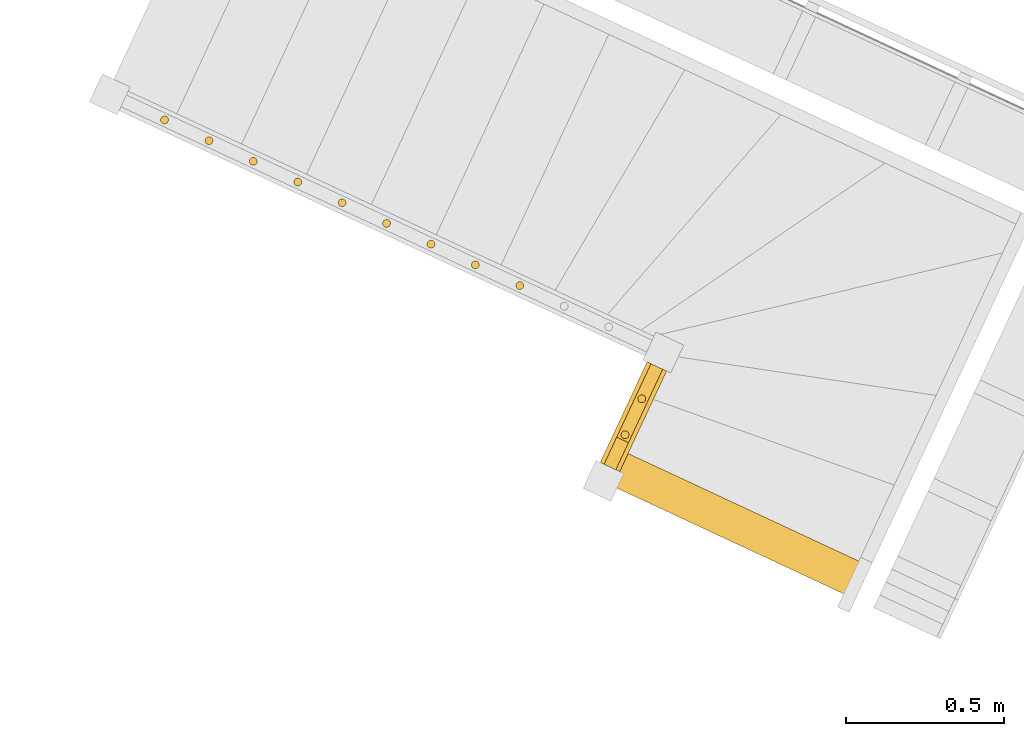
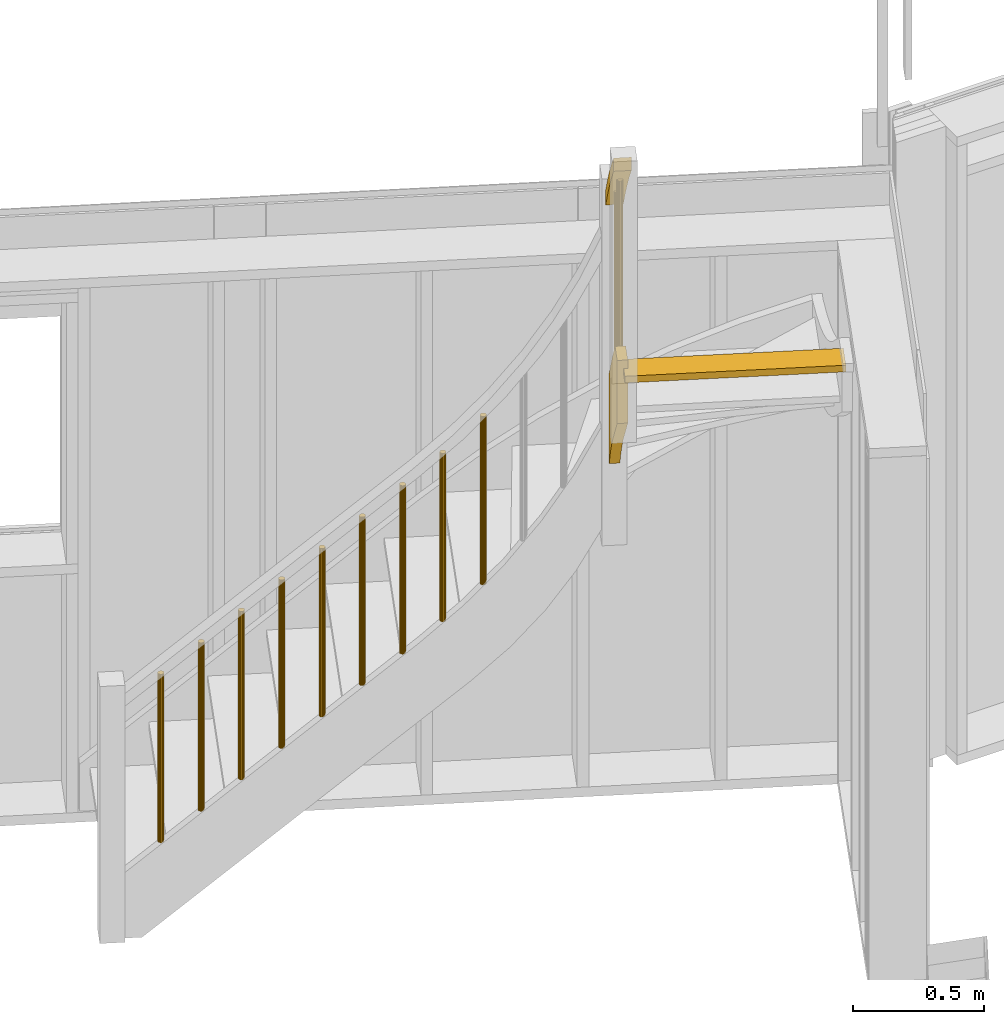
# One storey, part 33 of 34: 14 curtain walls.
"""IFC2X3 building model written with IfcOpenShell, lengths in metres."""

from ifc_helpers import new_model, si_unit, direction, frame, origin_with_axes, place, context, subcontext, project, spatial, faceted_brep, material, element, save


model = new_model("IFC2X3")

# Units and contexts
model_context = context("Model", 3, precision=1e-06, world=origin_with_axes(), true_north=direction((0.0, 1.0, 0.0)))
body_context = subcontext(model_context, "Body", "Model", "MODEL_VIEW")
ifc_project = project(units=[si_unit("LENGTHUNIT", "METRE"), si_unit("AREAUNIT", "SQUARE_METRE"), si_unit("VOLUMEUNIT", "CUBIC_METRE"), si_unit("PLANEANGLEUNIT", "RADIAN")], contexts=[model_context])

# Site, building, storey
site_placement = place(None, origin_with_axes())
site = spatial("IfcSite", under=ifc_project, at=site_placement, CompositionType="ELEMENT")
building_placement = place(site_placement, origin_with_axes())
building = spatial("IfcBuilding", under=site, at=building_placement, Name="Building 1", CompositionType="ELEMENT")
storey_placement = place(building_placement, origin_with_axes())
storey = spatial("IfcBuildingStorey", under=building, at=storey_placement, Name="Rez de chaussée", CompositionType="ELEMENT", Elevation=0.0)

# Curtain walls
ifc_material = material(Name="NH II")
curtain_wall_1_placement = place(storey_placement, frame((12.2549825, 4.03997, 0.738659), z_axis=(0.0, 0.0, 1.0), x_axis=(0.4226183, 0.9063078, 0.0)))
element("IfcCurtainWall", 1, at=curtain_wall_1_placement, inside=storey, material=ifc_material, Name="Escalier", context=body_context, shape_type="Brep", body=[
    faceted_brep([(0.0042753, 0.0117462, 0.787682), (0.0, 0.0125, 0.0), (0.0, 0.0125, 0.787682), (-0.0042753, 0.0117462, 0.0), (-0.0042753, 0.0117462, 0.787682), (-0.0080348, 0.0095756, 0.0), (-0.0080348, 0.0095756, 0.787682), (-0.0108253, 0.00625, 0.0), (-0.0108253, 0.00625, 0.787682), (-0.0123101, 0.0021706, 0.0), (-0.0123101, 0.0021706, 0.787682), (-0.0123101, -0.0021706, 0.0), (-0.0123101, -0.0021706, 0.787682), (-0.0108253, -0.00625, 0.0), (-0.0108253, -0.00625, 0.787682), (-0.0080348, -0.0095756, 0.0), (-0.0080348, -0.0095756, 0.787682), (-0.0042753, -0.0117462, 0.0), (-0.0042753, -0.0117462, 0.787682), (0.0, -0.0125, 0.0), (0.0, -0.0125, 0.787682), (0.0042753, -0.0117462, 0.0), (0.0042753, -0.0117462, 0.787682), (0.0080348, -0.0095756, 0.0), (0.0080348, -0.0095756, 0.787682), (0.0108253, -0.00625, 0.0), (0.0108253, -0.00625, 0.787682), (0.0123101, -0.0021706, 0.0), (0.0123101, -0.0021706, 0.787682), (0.0123101, 0.0021706, 0.0), (0.0123101, 0.0021706, 0.787682), (0.0108253, 0.00625, 0.0), (0.0108253, 0.00625, 0.787682), (0.0080348, 0.0095756, 0.0), (0.0080348, 0.0095756, 0.787682), (0.0042753, 0.0117462, 0.0)], [[[0, 1, 2]], [[2, 1, 3]], [[2, 3, 4]], [[4, 3, 5]], [[4, 5, 6]], [[6, 5, 7]], [[6, 7, 8]], [[8, 7, 9]], [[8, 9, 10]], [[10, 9, 11]], [[10, 11, 12]], [[12, 11, 13]], [[12, 13, 14]], [[14, 13, 15]], [[14, 15, 16]], [[16, 15, 17]], [[16, 17, 18]], [[18, 17, 19]], [[18, 19, 20]], [[20, 19, 21]], [[20, 21, 22]], [[22, 21, 23]], [[22, 23, 24]], [[24, 23, 25]], [[24, 25, 26]], [[26, 25, 27]], [[26, 27, 28]], [[28, 27, 29]], [[28, 29, 30]], [[30, 29, 31]], [[30, 31, 32]], [[32, 31, 33]], [[32, 33, 34]], [[34, 33, 35]], [[34, 35, 0]], [[0, 35, 1]], [[10, 12, 8]], [[8, 12, 14]], [[8, 14, 6]], [[6, 14, 16]], [[6, 16, 4]], [[4, 16, 18]], [[4, 18, 2]], [[2, 18, 20]], [[2, 20, 0]], [[0, 20, 22]], [[0, 22, 34]], [[34, 22, 24]], [[34, 24, 32]], [[32, 24, 26]], [[32, 26, 30]], [[30, 26, 28]], [[29, 27, 31]], [[31, 27, 25]], [[31, 25, 33]], [[33, 25, 23]], [[33, 23, 35]], [[35, 23, 21]], [[35, 21, 1]], [[1, 21, 19]], [[1, 19, 3]], [[3, 19, 17]], [[3, 17, 5]], [[5, 17, 15]], [[5, 15, 7]], [[7, 15, 13]], [[7, 13, 9]], [[9, 13, 11]]]),
])
curtain_wall_2_placement = place(storey_placement, frame((12.9567291, 3.7127402, 1.4258915), z_axis=(0.0, 0.0, 1.0), x_axis=(0.4226183, 0.9063078, 0.0)))
element("IfcCurtainWall", 2, at=curtain_wall_2_placement, inside=storey, material=ifc_material, Name="Escalier", context=body_context, shape_type="Brep", body=[
    faceted_brep([(0.0042753, 0.0117462, 0.787682), (0.0, 0.0125, 0.0), (0.0, 0.0125, 0.7876801), (-0.0042753, 0.0117462, 0.0), (-0.0042753, 0.0117462, 0.787682), (-0.0080348, 0.0095756, 0.0), (-0.0080348, 0.0095756, 0.787682), (-0.0108253, 0.00625, 0.0), (-0.0108253, 0.00625, 0.787682), (-0.0123101, 0.0021706, 0.0), (-0.0123101, 0.0021706, 0.787682), (-0.0123101, -0.0021706, 0.0), (-0.0123101, -0.0021706, 0.787682), (-0.0108253, -0.00625, 0.0), (-0.0108253, -0.00625, 0.787682), (-0.0080348, -0.0095756, 0.0), (-0.0080348, -0.0095756, 0.787682), (-0.0042753, -0.0117462, 0.0), (-0.0042753, -0.0117462, 0.787682), (0.0, -0.0125, 0.0), (0.0, -0.0125, 0.787682), (0.0042753, -0.0117462, 0.0), (0.0042753, -0.0117462, 0.787682), (0.0080348, -0.0095756, 0.0), (0.0080348, -0.0095756, 0.787682), (0.0108253, -0.00625, 0.0), (0.0108253, -0.00625, 0.787682), (0.0123101, -0.0021706, 0.0), (0.0123101, -0.0021706, 0.787682), (0.0123101, 0.0021706, 0.0), (0.0123101, 0.0021706, 0.787682), (0.0108253, 0.00625, 0.0), (0.0108253, 0.00625, 0.787682), (0.0080348, 0.0095756, 0.0), (0.0080348, 0.0095756, 0.787682), (0.0042753, 0.0117462, 0.0)], [[[0, 1, 2]], [[2, 1, 3]], [[2, 3, 4]], [[4, 3, 5]], [[4, 5, 6]], [[6, 5, 7]], [[6, 7, 8]], [[8, 7, 9]], [[8, 9, 10]], [[10, 9, 11]], [[10, 11, 12]], [[12, 11, 13]], [[12, 13, 14]], [[14, 13, 15]], [[14, 15, 16]], [[16, 15, 17]], [[16, 17, 18]], [[18, 17, 19]], [[18, 19, 20]], [[20, 19, 21]], [[20, 21, 22]], [[22, 21, 23]], [[22, 23, 24]], [[24, 23, 25]], [[24, 25, 26]], [[26, 25, 27]], [[26, 27, 28]], [[28, 27, 29]], [[28, 29, 30]], [[30, 29, 31]], [[30, 31, 32]], [[32, 31, 33]], [[32, 33, 34]], [[34, 33, 35]], [[34, 35, 0]], [[0, 35, 1]], [[10, 12, 8]], [[8, 12, 14]], [[8, 14, 6]], [[6, 14, 16]], [[6, 16, 4]], [[4, 16, 18]], [[4, 18, 2]], [[2, 18, 20]], [[2, 20, 0]], [[0, 20, 22]], [[0, 22, 34]], [[34, 22, 24]], [[34, 24, 32]], [[32, 24, 26]], [[32, 26, 30]], [[30, 26, 28]], [[29, 27, 31]], [[31, 27, 25]], [[31, 25, 33]], [[33, 25, 23]], [[33, 23, 35]], [[35, 23, 21]], [[35, 21, 1]], [[1, 21, 19]], [[1, 19, 3]], [[3, 19, 17]], [[3, 17, 5]], [[5, 17, 15]], [[5, 15, 7]], [[7, 15, 13]], [[7, 13, 9]], [[9, 13, 11]]]),
])
curtain_wall_3_placement = place(storey_placement, frame((12.8163798, 3.7781862, 1.288445), z_axis=(0.0, 0.0, 1.0), x_axis=(0.4226183, 0.9063078, 0.0)))
element("IfcCurtainWall", 3, at=curtain_wall_3_placement, inside=storey, material=ifc_material, Name="Escalier", context=body_context, shape_type="Brep", body=[
    faceted_brep([(0.0042753, 0.0117462, 0.787682), (0.0, 0.0125, 0.0), (0.0, 0.0125, 0.7876805), (-0.0042753, 0.0117462, 0.0), (-0.0042753, 0.0117462, 0.787682), (-0.0080348, 0.0095756, 0.0), (-0.0080348, 0.0095756, 0.787682), (-0.0108253, 0.00625, 0.0), (-0.0108253, 0.00625, 0.787682), (-0.0123101, 0.0021706, 0.0), (-0.0123101, 0.0021706, 0.787682), (-0.0123101, -0.0021706, 0.0), (-0.0123101, -0.0021706, 0.787682), (-0.0108253, -0.00625, 0.0), (-0.0108253, -0.00625, 0.787682), (-0.0080348, -0.0095756, 0.0), (-0.0080348, -0.0095756, 0.787682), (-0.0042753, -0.0117462, 0.0), (-0.0042753, -0.0117462, 0.787682), (0.0, -0.0125, 0.0), (0.0, -0.0125, 0.7876805), (0.0042753, -0.0117462, 0.0), (0.0042753, -0.0117462, 0.787682), (0.0080348, -0.0095756, 0.0), (0.0080348, -0.0095756, 0.787682), (0.0108253, -0.00625, 0.0), (0.0108253, -0.00625, 0.787682), (0.0123101, -0.0021706, 0.0), (0.0123101, -0.0021706, 0.787682), (0.0123101, 0.0021706, 0.0), (0.0123101, 0.0021706, 0.787682), (0.0108253, 0.00625, 0.0), (0.0108253, 0.00625, 0.787682), (0.0080348, 0.0095756, 0.0), (0.0080348, 0.0095756, 0.787682), (0.0042753, 0.0117462, 0.0)], [[[0, 1, 2]], [[2, 1, 3]], [[2, 3, 4]], [[4, 3, 5]], [[4, 5, 6]], [[6, 5, 7]], [[6, 7, 8]], [[8, 7, 9]], [[8, 9, 10]], [[10, 9, 11]], [[10, 11, 12]], [[12, 11, 13]], [[12, 13, 14]], [[14, 13, 15]], [[14, 15, 16]], [[16, 15, 17]], [[16, 17, 18]], [[18, 17, 19]], [[18, 19, 20]], [[20, 19, 21]], [[20, 21, 22]], [[22, 21, 23]], [[22, 23, 24]], [[24, 23, 25]], [[24, 25, 26]], [[26, 25, 27]], [[26, 27, 28]], [[28, 27, 29]], [[28, 29, 30]], [[30, 29, 31]], [[30, 31, 32]], [[32, 31, 33]], [[32, 33, 34]], [[34, 33, 35]], [[34, 35, 0]], [[0, 35, 1]], [[10, 12, 8]], [[8, 12, 14]], [[8, 14, 6]], [[6, 14, 16]], [[6, 16, 4]], [[4, 16, 18]], [[4, 18, 2]], [[2, 18, 20]], [[2, 20, 0]], [[0, 20, 22]], [[0, 22, 34]], [[34, 22, 24]], [[34, 24, 32]], [[32, 24, 26]], [[32, 26, 30]], [[30, 26, 28]], [[29, 27, 31]], [[31, 27, 25]], [[31, 25, 33]], [[33, 25, 23]], [[33, 23, 35]], [[35, 23, 21]], [[35, 21, 1]], [[1, 21, 19]], [[1, 19, 3]], [[3, 19, 17]], [[3, 17, 5]], [[5, 17, 15]], [[5, 15, 7]], [[7, 15, 13]], [[7, 13, 9]], [[9, 13, 11]]]),
])
curtain_wall_4_placement = place(storey_placement, frame((13.0970784, 3.6472943, 1.5673174), z_axis=(0.0, 0.0, 1.0), x_axis=(0.4226183, 0.9063078, 0.0)))
element("IfcCurtainWall", 4, at=curtain_wall_4_placement, inside=storey, material=ifc_material, Name="Escalier", context=body_context, shape_type="Brep", body=[
    faceted_brep([(0.0042753, 0.0117462, 0.787682), (0.0, 0.0125, 0.0), (0.0, 0.0125, 0.7876805), (-0.0042753, 0.0117462, 0.0), (-0.0042753, 0.0117462, 0.787682), (-0.0080348, 0.0095756, 0.0), (-0.0080348, 0.0095756, 0.787682), (-0.0108253, 0.00625, 0.0), (-0.0108253, 0.00625, 0.787682), (-0.0123101, 0.0021706, 0.0), (-0.0123101, 0.0021706, 0.787682), (-0.0123101, -0.0021706, 0.0), (-0.0123101, -0.0021706, 0.787682), (-0.0108253, -0.00625, 0.0), (-0.0108253, -0.00625, 0.787682), (-0.0080348, -0.0095756, 0.0), (-0.0080348, -0.0095756, 0.787682), (-0.0042753, -0.0117462, 0.0), (-0.0042753, -0.0117462, 0.787682), (0.0, -0.0125, 0.0), (0.0, -0.0125, 0.7876805), (0.0042753, -0.0117462, 0.0), (0.0042753, -0.0117462, 0.787682), (0.0080348, -0.0095756, 0.0), (0.0080348, -0.0095756, 0.787682), (0.0108253, -0.00625, 0.0), (0.0108253, -0.00625, 0.787682), (0.0123101, -0.0021706, 0.0), (0.0123101, -0.0021706, 0.787682), (0.0123101, 0.0021706, 0.0), (0.0123101, 0.0021706, 0.787682), (0.0108253, 0.00625, 0.0), (0.0108253, 0.00625, 0.787682), (0.0080348, 0.0095756, 0.0), (0.0080348, 0.0095756, 0.787682), (0.0042753, 0.0117462, 0.0)], [[[0, 1, 2]], [[2, 1, 3]], [[2, 3, 4]], [[4, 3, 5]], [[4, 5, 6]], [[6, 5, 7]], [[6, 7, 8]], [[8, 7, 9]], [[8, 9, 10]], [[10, 9, 11]], [[10, 11, 12]], [[12, 11, 13]], [[12, 13, 14]], [[14, 13, 15]], [[14, 15, 16]], [[16, 15, 17]], [[16, 17, 18]], [[18, 17, 19]], [[18, 19, 20]], [[20, 19, 21]], [[20, 21, 22]], [[22, 21, 23]], [[22, 23, 24]], [[24, 23, 25]], [[24, 25, 26]], [[26, 25, 27]], [[26, 27, 28]], [[28, 27, 29]], [[28, 29, 30]], [[30, 29, 31]], [[30, 31, 32]], [[32, 31, 33]], [[32, 33, 34]], [[34, 33, 35]], [[34, 35, 0]], [[0, 35, 1]], [[10, 12, 8]], [[8, 12, 14]], [[8, 14, 6]], [[6, 14, 16]], [[6, 16, 4]], [[4, 16, 18]], [[4, 18, 2]], [[2, 18, 20]], [[2, 20, 0]], [[0, 20, 22]], [[0, 22, 34]], [[34, 22, 24]], [[34, 24, 32]], [[32, 24, 26]], [[32, 26, 30]], [[30, 26, 28]], [[29, 27, 31]], [[31, 27, 25]], [[31, 25, 33]], [[33, 25, 23]], [[33, 23, 35]], [[35, 23, 21]], [[35, 21, 1]], [[1, 21, 19]], [[1, 19, 3]], [[3, 19, 17]], [[3, 17, 5]], [[5, 17, 15]], [[5, 15, 7]], [[7, 15, 13]], [[7, 13, 9]], [[9, 13, 11]]]),
])
curtain_wall_5_placement = place(storey_placement, frame((12.6760305, 3.8436322, 1.1509985), z_axis=(0.0, 0.0, 1.0), x_axis=(0.4226183, 0.9063078, 0.0)))
element("IfcCurtainWall", 5, at=curtain_wall_5_placement, inside=storey, material=ifc_material, Name="Escalier", context=body_context, shape_type="Brep", body=[
    faceted_brep([(0.0042753, 0.0117462, 0.787682), (0.0, 0.0125, 0.0), (0.0, 0.0125, 0.7876805), (-0.0042753, 0.0117462, 0.0), (-0.0042753, 0.0117462, 0.787682), (-0.0080348, 0.0095756, 0.0), (-0.0080348, 0.0095756, 0.787682), (-0.0108253, 0.00625, 0.0), (-0.0108253, 0.00625, 0.787682), (-0.0123101, 0.0021706, 0.0), (-0.0123101, 0.0021706, 0.787682), (-0.0123101, -0.0021706, 0.0), (-0.0123101, -0.0021706, 0.787682), (-0.0108253, -0.00625, 0.0), (-0.0108253, -0.00625, 0.787682), (-0.0080348, -0.0095756, 0.0), (-0.0080348, -0.0095756, 0.787682), (-0.0042753, -0.0117462, 0.0), (-0.0042753, -0.0117462, 0.787682), (0.0, -0.0125, 0.0), (0.0, -0.0125, 0.7876805), (0.0042753, -0.0117462, 0.0), (0.0042753, -0.0117462, 0.787682), (0.0080348, -0.0095756, 0.0), (0.0080348, -0.0095756, 0.787682), (0.0108253, -0.00625, 0.0), (0.0108253, -0.00625, 0.787682), (0.0123101, -0.0021706, 0.0), (0.0123101, -0.0021706, 0.787682), (0.0123101, 0.0021706, 0.0), (0.0123101, 0.0021706, 0.787682), (0.0108253, 0.00625, 0.0), (0.0108253, 0.00625, 0.787682), (0.0080348, 0.0095756, 0.0), (0.0080348, 0.0095756, 0.787682), (0.0042753, 0.0117462, 0.0)], [[[0, 1, 2]], [[2, 1, 3]], [[2, 3, 4]], [[4, 3, 5]], [[4, 5, 6]], [[6, 5, 7]], [[6, 7, 8]], [[8, 7, 9]], [[8, 9, 10]], [[10, 9, 11]], [[10, 11, 12]], [[12, 11, 13]], [[12, 13, 14]], [[14, 13, 15]], [[14, 15, 16]], [[16, 15, 17]], [[16, 17, 18]], [[18, 17, 19]], [[18, 19, 20]], [[20, 19, 21]], [[20, 21, 22]], [[22, 21, 23]], [[22, 23, 24]], [[24, 23, 25]], [[24, 25, 26]], [[26, 25, 27]], [[26, 27, 28]], [[28, 27, 29]], [[28, 29, 30]], [[30, 29, 31]], [[30, 31, 32]], [[32, 31, 33]], [[32, 33, 34]], [[34, 33, 35]], [[34, 35, 0]], [[0, 35, 1]], [[10, 12, 8]], [[8, 12, 14]], [[8, 14, 6]], [[6, 14, 16]], [[6, 16, 4]], [[4, 16, 18]], [[4, 18, 2]], [[2, 18, 20]], [[2, 20, 0]], [[0, 20, 22]], [[0, 22, 34]], [[34, 22, 24]], [[34, 24, 32]], [[32, 24, 26]], [[32, 26, 30]], [[30, 26, 28]], [[29, 27, 31]], [[31, 27, 25]], [[31, 25, 33]], [[33, 25, 23]], [[33, 23, 35]], [[35, 23, 21]], [[35, 21, 1]], [[1, 21, 19]], [[1, 19, 3]], [[3, 19, 17]], [[3, 17, 5]], [[5, 17, 15]], [[5, 15, 7]], [[7, 15, 13]], [[7, 13, 9]], [[9, 13, 11]]]),
])
curtain_wall_6_placement = place(storey_placement, frame((13.5176751, 2.9983793, 3.9584625), z_axis=(0.2784341, 0.597104, -0.7522907), x_axis=(-0.9063078, 0.4226183, 0.0)))
element("IfcCurtainWall", 6, at=curtain_wall_6_placement, inside=storey, material=ifc_material, Name="Escalier", context=body_context, shape_type="Brep", body=[
    faceted_brep([(-0.034, -0.0273714, 0.5805068), (0.034, -0.0273714, 0.5805068), (-0.034, 0.0200408, 0.5263689), (0.034, 0.0200408, 0.5263689), (-0.034, 0.0148012, 0.0), (0.034, 0.0148012, 0.0), (-0.034, -0.0261444, 0.046754), (0.034, -0.0261444, 0.046754), (0.034, 0.0260619, 0.3947944), (-0.034, 0.0260619, 0.3947944), (0.034, 0.0271956, 0.2630872), (-0.034, 0.0271956, 0.2630872), (0.034, 0.0234403, 0.1314285), (-0.034, 0.0234403, 0.1314285), (0.034, -0.0198741, 0.4471713), (0.034, -0.0171691, 0.3136525), (0.034, -0.0192602, 0.1801227), (-0.034, -0.0198741, 0.4471713), (-0.034, -0.0171691, 0.3136525), (-0.034, -0.0192602, 0.1801227)], [[[0, 1, 2]], [[2, 1, 3]], [[4, 5, 6]], [[6, 5, 7]], [[3, 8, 2]], [[2, 8, 9]], [[8, 10, 9]], [[9, 10, 11]], [[10, 12, 11]], [[11, 12, 13]], [[12, 5, 13]], [[13, 5, 4]], [[1, 14, 3]], [[3, 14, 8]], [[14, 15, 8]], [[8, 15, 10]], [[15, 16, 10]], [[10, 16, 12]], [[16, 7, 12]], [[12, 7, 5]], [[0, 2, 17]], [[17, 2, 9]], [[17, 9, 18]], [[18, 9, 11]], [[18, 11, 19]], [[19, 11, 13]], [[19, 13, 6]], [[6, 13, 4]], [[0, 17, 1]], [[1, 17, 14]], [[17, 18, 14]], [[14, 18, 15]], [[18, 19, 15]], [[15, 19, 16]], [[19, 6, 16]], [[16, 6, 7]]]),
])
curtain_wall_7_placement = place(storey_placement, frame((13.49983, 2.9601104, 2.9742691), z_axis=(0.2784341, 0.597104, -0.7522907), x_axis=(-0.9063078, 0.4226183, 0.0)))
element("IfcCurtainWall", 7, at=curtain_wall_7_placement, inside=storey, material=ifc_material, Name="Escalier", context=body_context, shape_type="Brep", body=[
    faceted_brep([(-0.0045, 0.0241556, 0.0534096), (-0.0045, 0.0715499, 0.094916), (-0.0045, 0.0445793, 0.0300886), (-0.0045, 0.0919736, 0.071595), (-0.0205, 0.0445793, 0.0300886), (-0.0205, 0.0919736, 0.071595), (-0.0205, 0.0715499, 0.094916), (-0.0205, 0.0241556, 0.0534096), (-0.0205, -0.1234531, 0.2219575), (0.0205, -0.1234531, 0.2219575), (0.0205, 0.07093, 0.0), (-0.0205, 0.07093, 0.0), (-0.0045, -0.0833029, 0.2262005), (-0.0205, -0.0833029, 0.2262005), (-0.0045, 0.0789219, 0.3682717), (-0.0205, 0.0800645, 0.3692723), (-0.0205, -0.0628792, 0.2028795), (-0.0045, -0.0628792, 0.2028795), (-0.0045, 0.0993457, 0.3449507), (-0.0204057, 0.1004883, 0.3459513), (-0.0204057, 0.0800645, 0.3692723), (-0.0205, 0.1004883, 0.3459513), (-0.0205, -0.0544604, 0.4771518), (-0.0045, -0.0544604, 0.4771518), (-0.0205, 0.043862, 0.5632594), (-0.0045, 0.043862, 0.5632594), (-0.0045, 0.0234383, 0.5865804), (-0.0045, -0.0748842, 0.5004728), (-0.0205, -0.0748842, 0.5004728), (-0.0205, 0.0234383, 0.5865804), (-0.0205, 0.1440545, 0.195085), (-0.0205, 0.1420401, 0.0622759), (-0.0205, -0.1152888, 0.4879407), (-0.0205, 0.1338592, 0.4604956), (-0.0205, 0.1413263, 0.3278813), (-0.0205, -0.1154158, 0.5609653), (-0.0205, -0.1202716, 0.6338284), (-0.0205, -0.1298357, 0.706224), (-0.0205, -0.1440679, 0.7778484), (0.0205, -0.1440679, 0.7778484), (0.0205, 0.1338592, 0.4604956), (0.0205, 0.1420401, 0.0622759), (0.0205, -0.1152888, 0.4879407), (0.0205, 0.1413263, 0.3278813), (0.0205, 0.1440545, 0.195085), (0.0205, -0.1298357, 0.706224), (0.0205, -0.1202716, 0.6338284), (0.0205, -0.1154158, 0.5609653)], [[[0, 1, 2]], [[2, 1, 3]], [[4, 2, 5]], [[5, 2, 3]], [[5, 3, 6]], [[6, 3, 1]], [[0, 7, 1]], [[1, 7, 6]], [[7, 0, 8]], [[8, 0, 9]], [[9, 0, 10]], [[10, 0, 2]], [[10, 2, 11]], [[11, 2, 4]], [[12, 13, 14]], [[14, 13, 15]], [[13, 12, 16]], [[16, 12, 17]], [[18, 14, 19]], [[19, 14, 20]], [[18, 21, 16]], [[18, 16, 17]], [[18, 17, 14]], [[14, 17, 12]], [[22, 23, 24]], [[24, 23, 25]], [[25, 23, 26]], [[26, 23, 27]], [[28, 27, 22]], [[22, 27, 23]], [[29, 26, 28]], [[28, 26, 27]], [[7, 16, 6]], [[6, 16, 30]], [[6, 30, 31]], [[7, 8, 16]], [[16, 8, 13]], [[8, 32, 13]], [[13, 32, 22]], [[13, 22, 15]], [[15, 22, 33]], [[15, 33, 21]], [[21, 33, 34]], [[21, 34, 30]], [[22, 32, 28]], [[28, 32, 35]], [[28, 35, 29]], [[29, 35, 36]], [[29, 36, 37]], [[37, 38, 29]], [[22, 24, 33]], [[6, 31, 5]], [[5, 31, 11]], [[5, 11, 4]], [[16, 21, 30]], [[29, 38, 26]], [[26, 38, 39]], [[26, 39, 40]], [[26, 40, 25]], [[25, 40, 33]], [[25, 33, 24]], [[11, 31, 10]], [[10, 31, 41]], [[9, 42, 8]], [[8, 42, 32]], [[40, 43, 33]], [[33, 43, 34]], [[43, 44, 34]], [[34, 44, 30]], [[44, 41, 30]], [[30, 41, 31]], [[39, 45, 40]], [[40, 45, 46]], [[40, 46, 47]], [[47, 42, 40]], [[40, 42, 43]], [[42, 9, 43]], [[43, 9, 44]], [[9, 10, 44]], [[44, 10, 41]], [[38, 37, 39]], [[39, 37, 45]], [[37, 36, 45]], [[45, 36, 46]], [[36, 35, 46]], [[46, 35, 47]], [[35, 32, 47]], [[47, 32, 42]]]),
])
curtain_wall_8_placement = place(storey_placement, frame((14.2993566, 2.6527815, 2.965504), z_axis=(0.0, 0.0, 1.0), x_axis=(-0.9063078, 0.4226183, 0.0)))
element("IfcCurtainWall", 8, at=curtain_wall_8_placement, inside=storey, material=ifc_material, Name="Escalier", context=body_context, shape_type="Brep", body=[
    faceted_brep([(0.0, 0.057, -0.0155), (0.0, -0.057, -0.0155), (0.0, -0.057, 0.0155), (0.0, 0.057, 0.0155), (0.85, -0.057, -0.0155), (0.85, 0.057, -0.0155), (0.85, 0.057, 0.0155), (0.85, -0.057, 0.0155)], [[[0, 1, 2, 3]], [[4, 5, 6, 7]], [[1, 4, 7, 2]], [[2, 7, 6, 3]], [[0, 5, 4, 1]], [[5, 0, 3, 6]]]),
])
curtain_wall_9_placement = place(storey_placement, frame((13.5700282, 3.1106511, 3.0013922), z_axis=(0.0, 0.0, 1.0), x_axis=(0.4226183, 0.9063078, 0.0)))
element("IfcCurtainWall", 9, at=curtain_wall_9_placement, inside=storey, material=ifc_material, Name="Escalier", context=body_context, shape_type="Brep", body=[
    faceted_brep([(0.0042753, 0.0117462, 0.787682), (0.0, 0.0125, 0.0), (0.0, 0.0125, 0.787682), (-0.0042753, 0.0117462, 0.0), (-0.0042753, 0.0117462, 0.787682), (-0.0080348, 0.0095756, 0.0), (-0.0080348, 0.0095756, 0.787682), (-0.0108253, 0.00625, 0.0), (-0.0108253, 0.00625, 0.787682), (-0.0123101, 0.0021706, 0.0), (-0.0123101, 0.0021706, 0.787682), (-0.0123101, -0.0021706, 0.0), (-0.0123101, -0.0021706, 0.787682), (-0.0108253, -0.00625, 0.0), (-0.0108253, -0.00625, 0.787682), (-0.0080348, -0.0095756, 0.0), (-0.0080348, -0.0095756, 0.787682), (-0.0042753, -0.0117462, 0.0), (-0.0042753, -0.0117462, 0.787682), (0.0, -0.0125, 0.0), (0.0, -0.0125, 0.787682), (0.0042753, -0.0117462, 0.0), (0.0042753, -0.0117462, 0.787682), (0.0080348, -0.0095756, 0.0), (0.0080348, -0.0095756, 0.787682), (0.0108253, -0.00625, 0.0), (0.0108253, -0.00625, 0.787682), (0.0123101, -0.0021706, 0.0), (0.0123101, -0.0021706, 0.787682), (0.0123101, 0.0021706, 0.0), (0.0123101, 0.0021706, 0.787682), (0.0108253, 0.00625, 0.0), (0.0108253, 0.00625, 0.787682), (0.0080348, 0.0095756, 0.0), (0.0080348, 0.0095756, 0.787682), (0.0042753, 0.0117462, 0.0)], [[[0, 1, 2]], [[2, 1, 3]], [[2, 3, 4]], [[4, 3, 5]], [[4, 5, 6]], [[6, 5, 7]], [[6, 7, 8]], [[8, 7, 9]], [[8, 9, 10]], [[10, 9, 11]], [[10, 11, 12]], [[12, 11, 13]], [[12, 13, 14]], [[14, 13, 15]], [[14, 15, 16]], [[16, 15, 17]], [[16, 17, 18]], [[18, 17, 19]], [[18, 19, 20]], [[20, 19, 21]], [[20, 21, 22]], [[22, 21, 23]], [[22, 23, 24]], [[24, 23, 25]], [[24, 25, 26]], [[26, 25, 27]], [[26, 27, 28]], [[28, 27, 29]], [[28, 29, 30]], [[30, 29, 31]], [[30, 31, 32]], [[32, 31, 33]], [[32, 33, 34]], [[34, 33, 35]], [[34, 35, 0]], [[0, 35, 1]], [[10, 12, 8]], [[8, 12, 14]], [[8, 14, 6]], [[6, 14, 16]], [[6, 16, 4]], [[4, 16, 18]], [[4, 18, 2]], [[2, 18, 20]], [[2, 20, 0]], [[0, 20, 22]], [[0, 22, 34]], [[34, 22, 24]], [[34, 24, 32]], [[32, 24, 26]], [[32, 26, 30]], [[30, 26, 28]], [[29, 27, 31]], [[31, 27, 25]], [[31, 25, 33]], [[33, 25, 23]], [[33, 23, 35]], [[35, 23, 21]], [[35, 21, 1]], [[1, 21, 19]], [[1, 19, 3]], [[3, 19, 17]], [[3, 17, 5]], [[5, 17, 15]], [[5, 15, 7]], [[7, 15, 13]], [[7, 13, 9]], [[9, 13, 11]]]),
])
curtain_wall_10_placement = place(storey_placement, frame((13.2374277, 3.5818483, 1.7309756), z_axis=(0.0, 0.0, 1.0), x_axis=(0.4226183, 0.9063078, 0.0)))
element("IfcCurtainWall", 10, at=curtain_wall_10_placement, inside=storey, material=ifc_material, Name="Escalier", context=body_context, shape_type="Brep", body=[
    faceted_brep([(0.0042753, 0.0117462, 0.787682), (0.0, 0.0125, 0.0), (0.0, 0.0125, 0.7876805), (-0.0042753, 0.0117462, 0.0), (-0.0042753, 0.0117462, 0.787682), (-0.0080348, 0.0095756, 0.0), (-0.0080348, 0.0095756, 0.787682), (-0.0108253, 0.00625, 0.0), (-0.0108253, 0.00625, 0.787682), (-0.0123101, 0.0021706, 0.0), (-0.0123101, 0.0021706, 0.787682), (-0.0123101, -0.0021706, 0.0), (-0.0123101, -0.0021706, 0.787682), (-0.0108253, -0.00625, 0.0), (-0.0108253, -0.00625, 0.787682), (-0.0080348, -0.0095756, 0.0), (-0.0080348, -0.0095756, 0.787682), (-0.0042753, -0.0117462, 0.0), (-0.0042753, -0.0117462, 0.787682), (0.0, -0.0125, 0.0), (0.0, -0.0125, 0.7876805), (0.0042753, -0.0117462, 0.0), (0.0042753, -0.0117462, 0.787682), (0.0080348, -0.0095756, 0.0), (0.0080348, -0.0095756, 0.787682), (0.0108253, -0.00625, 0.0), (0.0108253, -0.00625, 0.787682), (0.0123101, -0.0021706, 0.0), (0.0123101, -0.0021706, 0.787682), (0.0123101, 0.0021706, 0.0), (0.0123101, 0.0021706, 0.787682), (0.0108253, 0.00625, 0.0), (0.0108253, 0.00625, 0.787682), (0.0080348, 0.0095756, 0.0), (0.0080348, 0.0095756, 0.787682), (0.0042753, 0.0117462, 0.0)], [[[0, 1, 2]], [[2, 1, 3]], [[2, 3, 4]], [[4, 3, 5]], [[4, 5, 6]], [[6, 5, 7]], [[6, 7, 8]], [[8, 7, 9]], [[8, 9, 10]], [[10, 9, 11]], [[10, 11, 12]], [[12, 11, 13]], [[12, 13, 14]], [[14, 13, 15]], [[14, 15, 16]], [[16, 15, 17]], [[16, 17, 18]], [[18, 17, 19]], [[18, 19, 20]], [[20, 19, 21]], [[20, 21, 22]], [[22, 21, 23]], [[22, 23, 24]], [[24, 23, 25]], [[24, 25, 26]], [[26, 25, 27]], [[26, 27, 28]], [[28, 27, 29]], [[28, 29, 30]], [[30, 29, 31]], [[30, 31, 32]], [[32, 31, 33]], [[32, 33, 34]], [[34, 33, 35]], [[34, 35, 0]], [[0, 35, 1]], [[10, 12, 8]], [[8, 12, 14]], [[8, 14, 6]], [[6, 14, 16]], [[6, 16, 4]], [[4, 16, 18]], [[4, 18, 2]], [[2, 18, 20]], [[2, 20, 0]], [[0, 20, 22]], [[0, 22, 34]], [[34, 22, 24]], [[34, 24, 32]], [[32, 24, 26]], [[32, 26, 30]], [[30, 26, 28]], [[29, 27, 31]], [[31, 27, 25]], [[31, 25, 33]], [[33, 25, 23]], [[33, 23, 35]], [[35, 23, 21]], [[35, 21, 1]], [[1, 21, 19]], [[1, 19, 3]], [[3, 19, 17]], [[3, 17, 5]], [[5, 17, 15]], [[5, 15, 7]], [[7, 15, 13]], [[7, 13, 9]], [[9, 13, 11]]]),
])
curtain_wall_11_placement = place(storey_placement, frame((13.6229584, 3.2241601, 2.8584629), z_axis=(0.0, 0.0, 1.0), x_axis=(0.4226183, 0.9063078, 0.0)))
element("IfcCurtainWall", 11, at=curtain_wall_11_placement, inside=storey, material=ifc_material, Name="Escalier", context=body_context, shape_type="Brep", body=[
    faceted_brep([(0.0042753, 0.0117462, 0.787682), (0.0, 0.0125, 0.0), (0.0, 0.0125, 0.7876911), (-0.0042753, 0.0117462, 0.0), (-0.0042753, 0.0117462, 0.787682), (-0.0080348, 0.0095756, 0.0), (-0.0080348, 0.0095756, 0.787682), (-0.0108253, 0.00625, 0.0), (-0.0108253, 0.00625, 0.787682), (-0.0123101, 0.0021706, 0.0), (-0.0123101, 0.0021706, 0.787682), (-0.0123101, -0.0021706, 0.0), (-0.0123101, -0.0021706, 0.787682), (-0.0108253, -0.00625, 0.0), (-0.0108253, -0.00625, 0.787682), (-0.0080348, -0.0095756, 0.0), (-0.0080348, -0.0095756, 0.787682), (-0.0042753, -0.0117462, 0.0), (-0.0042753, -0.0117462, 0.787682), (0.0, -0.0125, 0.0), (0.0, -0.0125, 0.7876805), (0.0042753, -0.0117462, 0.0), (0.0042753, -0.0117462, 0.787682), (0.0080348, -0.0095756, 0.0), (0.0080348, -0.0095756, 0.787682), (0.0108253, -0.00625, 0.0), (0.0108253, -0.00625, 0.787682), (0.0123101, -0.0021706, 0.0), (0.0123101, -0.0021706, 0.787682), (0.0123101, 0.0021706, 0.0), (0.0123101, 0.0021706, 0.787682), (0.0108253, 0.00625, 0.0), (0.0108253, 0.00625, 0.787682), (0.0080348, 0.0095756, 0.0), (0.0080348, 0.0095756, 0.787682), (0.0042753, 0.0117462, 0.0)], [[[0, 1, 2]], [[2, 1, 3]], [[2, 3, 4]], [[4, 3, 5]], [[4, 5, 6]], [[6, 5, 7]], [[6, 7, 8]], [[8, 7, 9]], [[8, 9, 10]], [[10, 9, 11]], [[10, 11, 12]], [[12, 11, 13]], [[12, 13, 14]], [[14, 13, 15]], [[14, 15, 16]], [[16, 15, 17]], [[16, 17, 18]], [[18, 17, 19]], [[18, 19, 20]], [[20, 19, 21]], [[20, 21, 22]], [[22, 21, 23]], [[22, 23, 24]], [[24, 23, 25]], [[24, 25, 26]], [[26, 25, 27]], [[26, 27, 28]], [[28, 27, 29]], [[28, 29, 30]], [[30, 29, 31]], [[30, 31, 32]], [[32, 31, 33]], [[32, 33, 34]], [[34, 33, 35]], [[34, 35, 0]], [[0, 35, 1]], [[10, 12, 8]], [[8, 12, 14]], [[8, 14, 6]], [[6, 14, 16]], [[6, 16, 4]], [[4, 16, 18]], [[4, 18, 2]], [[2, 18, 20]], [[2, 20, 0]], [[0, 20, 22]], [[0, 22, 34]], [[34, 22, 24]], [[34, 24, 32]], [[32, 24, 26]], [[32, 26, 30]], [[30, 26, 28]], [[29, 27, 31]], [[31, 27, 25]], [[31, 25, 33]], [[33, 25, 23]], [[33, 23, 35]], [[35, 23, 21]], [[35, 21, 1]], [[1, 21, 19]], [[1, 19, 3]], [[3, 19, 17]], [[3, 17, 5]], [[5, 17, 15]], [[5, 15, 7]], [[7, 15, 13]], [[7, 13, 9]], [[9, 13, 11]]]),
])
curtain_wall_12_placement = place(storey_placement, frame((12.1146332, 4.105416, 0.6012125), z_axis=(0.0, 0.0, 1.0), x_axis=(0.4226183, 0.9063078, 0.0)))
element("IfcCurtainWall", 12, at=curtain_wall_12_placement, inside=storey, material=ifc_material, Name="Escalier", context=body_context, shape_type="Brep", body=[
    faceted_brep([(0.0042753, 0.0117462, 0.787682), (0.0, 0.0125, 0.0), (0.0, 0.0125, 0.7876911), (-0.0042753, 0.0117462, 0.0), (-0.0042753, 0.0117462, 0.787682), (-0.0080348, 0.0095756, 0.0), (-0.0080348, 0.0095756, 0.787682), (-0.0108253, 0.00625, 0.0), (-0.0108253, 0.00625, 0.787682), (-0.0123101, 0.0021706, 0.0), (-0.0123101, 0.0021706, 0.787682), (-0.0123101, -0.0021706, 0.0), (-0.0123101, -0.0021706, 0.787682), (-0.0108253, -0.00625, 0.0), (-0.0108253, -0.00625, 0.787682), (-0.0080348, -0.0095756, 0.0), (-0.0080348, -0.0095756, 0.787682), (-0.0042753, -0.0117462, 0.0), (-0.0042753, -0.0117462, 0.787682), (0.0, -0.0125, 0.0), (0.0, -0.0125, 0.7876805), (0.0042753, -0.0117462, 0.0), (0.0042753, -0.0117462, 0.787682), (0.0080348, -0.0095756, 0.0), (0.0080348, -0.0095756, 0.787682), (0.0108253, -0.00625, 0.0), (0.0108253, -0.00625, 0.787682), (0.0123101, -0.0021706, 0.0), (0.0123101, -0.0021706, 0.787682), (0.0123101, 0.0021706, 0.0), (0.0123101, 0.0021706, 0.787682), (0.0108253, 0.00625, 0.0), (0.0108253, 0.00625, 0.787682), (0.0080348, 0.0095756, 0.0), (0.0080348, 0.0095756, 0.787682), (0.0042753, 0.0117462, 0.0)], [[[0, 1, 2]], [[2, 1, 3]], [[2, 3, 4]], [[4, 3, 5]], [[4, 5, 6]], [[6, 5, 7]], [[6, 7, 8]], [[8, 7, 9]], [[8, 9, 10]], [[10, 9, 11]], [[10, 11, 12]], [[12, 11, 13]], [[12, 13, 14]], [[14, 13, 15]], [[14, 15, 16]], [[16, 15, 17]], [[16, 17, 18]], [[18, 17, 19]], [[18, 19, 20]], [[20, 19, 21]], [[20, 21, 22]], [[22, 21, 23]], [[22, 23, 24]], [[24, 23, 25]], [[24, 25, 26]], [[26, 25, 27]], [[26, 27, 28]], [[28, 27, 29]], [[28, 29, 30]], [[30, 29, 31]], [[30, 31, 32]], [[32, 31, 33]], [[32, 33, 34]], [[34, 33, 35]], [[34, 35, 0]], [[0, 35, 1]], [[10, 12, 8]], [[8, 12, 14]], [[8, 14, 6]], [[6, 14, 16]], [[6, 16, 4]], [[4, 16, 18]], [[4, 18, 2]], [[2, 18, 20]], [[2, 20, 0]], [[0, 20, 22]], [[0, 22, 34]], [[34, 22, 24]], [[34, 24, 32]], [[32, 24, 26]], [[32, 26, 30]], [[30, 26, 28]], [[29, 27, 31]], [[31, 27, 25]], [[31, 25, 33]], [[33, 25, 23]], [[33, 23, 35]], [[35, 23, 21]], [[35, 21, 1]], [[1, 21, 19]], [[1, 19, 3]], [[3, 19, 17]], [[3, 17, 5]], [[5, 17, 15]], [[5, 15, 7]], [[7, 15, 13]], [[7, 13, 9]], [[9, 13, 11]]]),
])
curtain_wall_13_placement = place(storey_placement, frame((12.3953318, 3.9745241, 0.8761055), z_axis=(0.0, 0.0, 1.0), x_axis=(0.4226183, 0.9063078, 0.0)))
element("IfcCurtainWall", 13, at=curtain_wall_13_placement, inside=storey, material=ifc_material, Name="Escalier", context=body_context, shape_type="Brep", body=[
    faceted_brep([(0.0042753, 0.0117462, 0.787682), (0.0, 0.0125, 0.0), (0.0, 0.0125, 0.7876911), (-0.0042753, 0.0117462, 0.0), (-0.0042753, 0.0117462, 0.787682), (-0.0080348, 0.0095756, 0.0), (-0.0080348, 0.0095756, 0.787682), (-0.0108253, 0.00625, 0.0), (-0.0108253, 0.00625, 0.787682), (-0.0123101, 0.0021706, 0.0), (-0.0123101, 0.0021706, 0.787682), (-0.0123101, -0.0021706, 0.0), (-0.0123101, -0.0021706, 0.787682), (-0.0108253, -0.00625, 0.0), (-0.0108253, -0.00625, 0.787682), (-0.0080348, -0.0095756, 0.0), (-0.0080348, -0.0095756, 0.787682), (-0.0042753, -0.0117462, 0.0), (-0.0042753, -0.0117462, 0.787682), (0.0, -0.0125, 0.0), (0.0, -0.0125, 0.7876805), (0.0042753, -0.0117462, 0.0), (0.0042753, -0.0117462, 0.787682), (0.0080348, -0.0095756, 0.0), (0.0080348, -0.0095756, 0.787682), (0.0108253, -0.00625, 0.0), (0.0108253, -0.00625, 0.787682), (0.0123101, -0.0021706, 0.0), (0.0123101, -0.0021706, 0.787682), (0.0123101, 0.0021706, 0.0), (0.0123101, 0.0021706, 0.787682), (0.0108253, 0.00625, 0.0), (0.0108253, 0.00625, 0.787682), (0.0080348, 0.0095756, 0.0), (0.0080348, 0.0095756, 0.787682), (0.0042753, 0.0117462, 0.0)], [[[0, 1, 2]], [[2, 1, 3]], [[2, 3, 4]], [[4, 3, 5]], [[4, 5, 6]], [[6, 5, 7]], [[6, 7, 8]], [[8, 7, 9]], [[8, 9, 10]], [[10, 9, 11]], [[10, 11, 12]], [[12, 11, 13]], [[12, 13, 14]], [[14, 13, 15]], [[14, 15, 16]], [[16, 15, 17]], [[16, 17, 18]], [[18, 17, 19]], [[18, 19, 20]], [[20, 19, 21]], [[20, 21, 22]], [[22, 21, 23]], [[22, 23, 24]], [[24, 23, 25]], [[24, 25, 26]], [[26, 25, 27]], [[26, 27, 28]], [[28, 27, 29]], [[28, 29, 30]], [[30, 29, 31]], [[30, 31, 32]], [[32, 31, 33]], [[32, 33, 34]], [[34, 33, 35]], [[34, 35, 0]], [[0, 35, 1]], [[10, 12, 8]], [[8, 12, 14]], [[8, 14, 6]], [[6, 14, 16]], [[6, 16, 4]], [[4, 16, 18]], [[4, 18, 2]], [[2, 18, 20]], [[2, 20, 0]], [[0, 20, 22]], [[0, 22, 34]], [[34, 22, 24]], [[34, 24, 32]], [[32, 24, 26]], [[32, 26, 30]], [[30, 26, 28]], [[29, 27, 31]], [[31, 27, 25]], [[31, 25, 33]], [[33, 25, 23]], [[33, 23, 35]], [[35, 23, 21]], [[35, 21, 1]], [[1, 21, 19]], [[1, 19, 3]], [[3, 19, 17]], [[3, 17, 5]], [[5, 17, 15]], [[5, 15, 7]], [[7, 15, 13]], [[7, 13, 9]], [[9, 13, 11]]]),
])
curtain_wall_14_placement = place(storey_placement, frame((12.5356812, 3.9090781, 1.013552), z_axis=(0.0, 0.0, 1.0), x_axis=(0.4226183, 0.9063078, 0.0)))
element("IfcCurtainWall", 14, at=curtain_wall_14_placement, inside=storey, material=ifc_material, Name="Escalier", context=body_context, shape_type="Brep", body=[
    faceted_brep([(0.0042753, 0.0117462, 0.787682), (0.0, 0.0125, 0.0), (0.0, 0.0125, 0.787682), (-0.0042753, 0.0117462, 0.0), (-0.0042753, 0.0117462, 0.787682), (-0.0080348, 0.0095756, 0.0), (-0.0080348, 0.0095756, 0.787682), (-0.0108253, 0.00625, 0.0), (-0.0108253, 0.00625, 0.787682), (-0.0123101, 0.0021706, 0.0), (-0.0123101, 0.0021706, 0.787682), (-0.0123101, -0.0021706, 0.0), (-0.0123101, -0.0021706, 0.787682), (-0.0108253, -0.00625, 0.0), (-0.0108253, -0.00625, 0.787682), (-0.0080348, -0.0095756, 0.0), (-0.0080348, -0.0095756, 0.787682), (-0.0042753, -0.0117462, 0.0), (-0.0042753, -0.0117462, 0.787682), (0.0, -0.0125, 0.0), (0.0, -0.0125, 0.787682), (0.0042753, -0.0117462, 0.0), (0.0042753, -0.0117462, 0.787682), (0.0080348, -0.0095756, 0.0), (0.0080348, -0.0095756, 0.787682), (0.0108253, -0.00625, 0.0), (0.0108253, -0.00625, 0.787682), (0.0123101, -0.0021706, 0.0), (0.0123101, -0.0021706, 0.787682), (0.0123101, 0.0021706, 0.0), (0.0123101, 0.0021706, 0.787682), (0.0108253, 0.00625, 0.0), (0.0108253, 0.00625, 0.787682), (0.0080348, 0.0095756, 0.0), (0.0080348, 0.0095756, 0.787682), (0.0042753, 0.0117462, 0.0)], [[[0, 1, 2]], [[2, 1, 3]], [[2, 3, 4]], [[4, 3, 5]], [[4, 5, 6]], [[6, 5, 7]], [[6, 7, 8]], [[8, 7, 9]], [[8, 9, 10]], [[10, 9, 11]], [[10, 11, 12]], [[12, 11, 13]], [[12, 13, 14]], [[14, 13, 15]], [[14, 15, 16]], [[16, 15, 17]], [[16, 17, 18]], [[18, 17, 19]], [[18, 19, 20]], [[20, 19, 21]], [[20, 21, 22]], [[22, 21, 23]], [[22, 23, 24]], [[24, 23, 25]], [[24, 25, 26]], [[26, 25, 27]], [[26, 27, 28]], [[28, 27, 29]], [[28, 29, 30]], [[30, 29, 31]], [[30, 31, 32]], [[32, 31, 33]], [[32, 33, 34]], [[34, 33, 35]], [[34, 35, 0]], [[0, 35, 1]], [[10, 12, 8]], [[8, 12, 14]], [[8, 14, 6]], [[6, 14, 16]], [[6, 16, 4]], [[4, 16, 18]], [[4, 18, 2]], [[2, 18, 20]], [[2, 20, 0]], [[0, 20, 22]], [[0, 22, 34]], [[34, 22, 24]], [[34, 24, 32]], [[32, 24, 26]], [[32, 26, 30]], [[30, 26, 28]], [[29, 27, 31]], [[31, 27, 25]], [[31, 25, 33]], [[33, 25, 23]], [[33, 23, 35]], [[35, 23, 21]], [[35, 21, 1]], [[1, 21, 19]], [[1, 19, 3]], [[3, 19, 17]], [[3, 17, 5]], [[5, 17, 15]], [[5, 15, 7]], [[7, 15, 13]], [[7, 13, 9]], [[9, 13, 11]]]),
])

save(model, "model.ifc")
